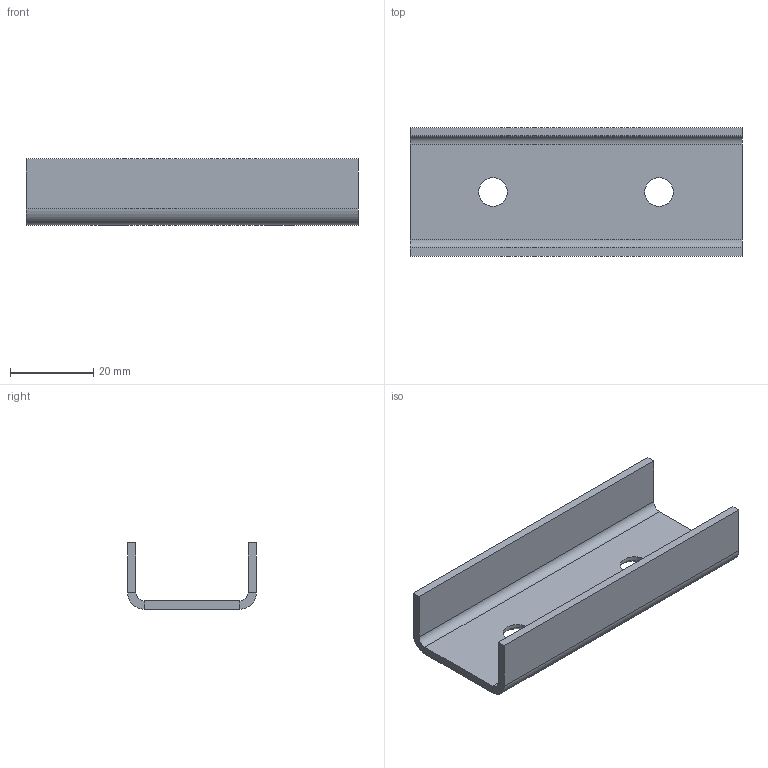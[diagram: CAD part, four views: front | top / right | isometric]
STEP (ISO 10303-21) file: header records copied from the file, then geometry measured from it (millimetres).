
FILE_DESCRIPTION (( 'STEP AP203' ), '1' );
FILE_NAME ('ORW-73.24.20.10.003 Ïðîôèëü.STEP', '2025-10-14T12:56:28', ( 'Àíäðåé' ), ( '' ), 'SwSTEP 2.0', 'SolidWorks 2025', '' );
FILE_SCHEMA (( 'CONFIG_CONTROL_DESIGN' ));
Length unit declared in the file: millimetre
Products named in the file (1): ORW-73.24.20.10.003 Профиль
Bounding box: 80 x 31 x 16 mm (x, y, z)
Volume: 8852.1 mm3; surface area: 9487 mm2
Topology: 1 solids, 1 shells, 26 faces, 56 edges, 32 vertices
Faces by surface type: plane 18, cylinder 6, cone 2
Full cylindrical faces by diameter (mm): 6.9 x2
Entity records: 733 total; most frequent: DIRECTION 118, CARTESIAN_POINT 107, ORIENTED_EDGE 100, EDGE_CURVE 50, AXIS2_PLACEMENT_3D 41, VECTOR 36, LINE 36, EDGE_LOOP 34
